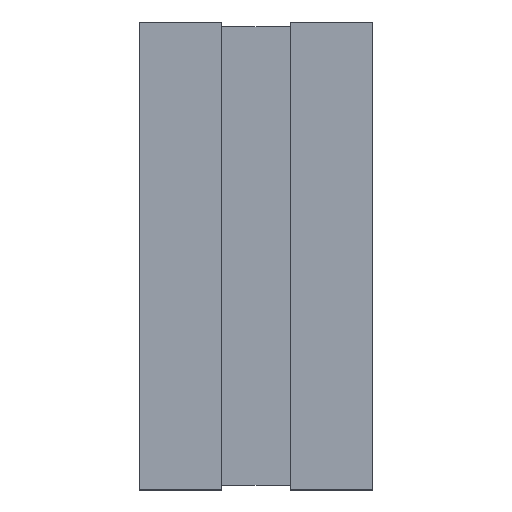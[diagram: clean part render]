
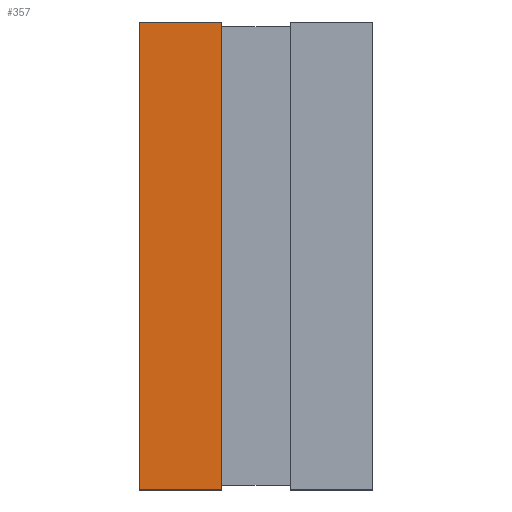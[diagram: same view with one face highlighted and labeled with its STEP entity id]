
A CAD part, top view. The second image highlights one B-rep face of the part: STEP entity #357.
In plain terms, the highlighted planar face has unit normal (0, 0, 1).
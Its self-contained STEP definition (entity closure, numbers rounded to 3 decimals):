
#43 = VERTEX_POINT('',#44);
#44 = CARTESIAN_POINT('',(0.,0.,0.7));
#51 = PLANE('',#52);
#52 = AXIS2_PLACEMENT_3D('',#53,#54,#55);
#53 = CARTESIAN_POINT('',(0.,0.,0.));
#54 = DIRECTION('',(1.,0.,-0.));
#55 = DIRECTION('',(0.,0.,1.));
#63 = PLANE('',#64);
#64 = AXIS2_PLACEMENT_3D('',#65,#66,#67);
#65 = CARTESIAN_POINT('',(0.,0.,0.));
#66 = DIRECTION('',(-0.,1.,0.));
#67 = DIRECTION('',(0.,0.,1.));
#104 = VERTEX_POINT('',#105);
#105 = CARTESIAN_POINT('',(0.,6.4,0.7));
#119 = PLANE('',#120);
#120 = AXIS2_PLACEMENT_3D('',#121,#122,#123);
#121 = CARTESIAN_POINT('',(0.,6.4,0.));
#122 = DIRECTION('',(-0.,1.,0.));
#123 = DIRECTION('',(0.,0.,1.));
#131 = EDGE_CURVE('',#43,#104,#132,.T.);
#132 = SURFACE_CURVE('',#133,(#137,#144),.PCURVE_S1.);
#133 = LINE('',#134,#135);
#134 = CARTESIAN_POINT('',(0.,0.,0.7));
#135 = VECTOR('',#136,1.);
#136 = DIRECTION('',(-0.,1.,0.));
#137 = PCURVE('',#51,#138);
#138 = DEFINITIONAL_REPRESENTATION('',(#139),#143);
#139 = LINE('',#140,#141);
#140 = CARTESIAN_POINT('',(0.7,0.));
#141 = VECTOR('',#142,1.);
#142 = DIRECTION('',(0.,-1.));
#143 = ( GEOMETRIC_REPRESENTATION_CONTEXT(2) 
PARAMETRIC_REPRESENTATION_CONTEXT() REPRESENTATION_CONTEXT('2D SPACE',''
  ) );
#144 = PCURVE('',#145,#150);
#145 = PLANE('',#146);
#146 = AXIS2_PLACEMENT_3D('',#147,#148,#149);
#147 = CARTESIAN_POINT('',(0.,0.,0.7));
#148 = DIRECTION('',(0.,0.,1.));
#149 = DIRECTION('',(1.,0.,-0.));
#150 = DEFINITIONAL_REPRESENTATION('',(#151),#155);
#151 = LINE('',#152,#153);
#152 = CARTESIAN_POINT('',(0.,0.));
#153 = VECTOR('',#154,1.);
#154 = DIRECTION('',(0.,1.));
#155 = ( GEOMETRIC_REPRESENTATION_CONTEXT(2) 
PARAMETRIC_REPRESENTATION_CONTEXT() REPRESENTATION_CONTEXT('2D SPACE',''
  ) );
#163 = VERTEX_POINT('',#164);
#164 = CARTESIAN_POINT('',(1.13,0.,0.7));
#171 = PLANE('',#172);
#172 = AXIS2_PLACEMENT_3D('',#173,#174,#175);
#173 = CARTESIAN_POINT('',(1.13,0.,0.));
#174 = DIRECTION('',(1.,0.,-0.));
#175 = DIRECTION('',(0.,0.,1.));
#214 = VERTEX_POINT('',#215);
#215 = CARTESIAN_POINT('',(1.13,6.4,0.7));
#236 = EDGE_CURVE('',#163,#214,#237,.T.);
#237 = SURFACE_CURVE('',#238,(#242,#249),.PCURVE_S1.);
#238 = LINE('',#239,#240);
#239 = CARTESIAN_POINT('',(1.13,0.,0.7));
#240 = VECTOR('',#241,1.);
#241 = DIRECTION('',(0.,1.,0.));
#242 = PCURVE('',#171,#243);
#243 = DEFINITIONAL_REPRESENTATION('',(#244),#248);
#244 = LINE('',#245,#246);
#245 = CARTESIAN_POINT('',(0.7,0.));
#246 = VECTOR('',#247,1.);
#247 = DIRECTION('',(0.,-1.));
#248 = ( GEOMETRIC_REPRESENTATION_CONTEXT(2) 
PARAMETRIC_REPRESENTATION_CONTEXT() REPRESENTATION_CONTEXT('2D SPACE',''
  ) );
#249 = PCURVE('',#145,#250);
#250 = DEFINITIONAL_REPRESENTATION('',(#251),#255);
#251 = LINE('',#252,#253);
#252 = CARTESIAN_POINT('',(1.13,0.));
#253 = VECTOR('',#254,1.);
#254 = DIRECTION('',(0.,1.));
#255 = ( GEOMETRIC_REPRESENTATION_CONTEXT(2) 
PARAMETRIC_REPRESENTATION_CONTEXT() REPRESENTATION_CONTEXT('2D SPACE',''
  ) );
#282 = EDGE_CURVE('',#43,#163,#283,.T.);
#283 = SURFACE_CURVE('',#284,(#288,#295),.PCURVE_S1.);
#284 = LINE('',#285,#286);
#285 = CARTESIAN_POINT('',(0.,0.,0.7));
#286 = VECTOR('',#287,1.);
#287 = DIRECTION('',(1.,0.,-0.));
#288 = PCURVE('',#63,#289);
#289 = DEFINITIONAL_REPRESENTATION('',(#290),#294);
#290 = LINE('',#291,#292);
#291 = CARTESIAN_POINT('',(0.7,0.));
#292 = VECTOR('',#293,1.);
#293 = DIRECTION('',(0.,1.));
#294 = ( GEOMETRIC_REPRESENTATION_CONTEXT(2) 
PARAMETRIC_REPRESENTATION_CONTEXT() REPRESENTATION_CONTEXT('2D SPACE',''
  ) );
#295 = PCURVE('',#145,#296);
#296 = DEFINITIONAL_REPRESENTATION('',(#297),#301);
#297 = LINE('',#298,#299);
#298 = CARTESIAN_POINT('',(0.,0.));
#299 = VECTOR('',#300,1.);
#300 = DIRECTION('',(1.,0.));
#301 = ( GEOMETRIC_REPRESENTATION_CONTEXT(2) 
PARAMETRIC_REPRESENTATION_CONTEXT() REPRESENTATION_CONTEXT('2D SPACE',''
  ) );
#329 = EDGE_CURVE('',#104,#214,#330,.T.);
#330 = SURFACE_CURVE('',#331,(#335,#342),.PCURVE_S1.);
#331 = LINE('',#332,#333);
#332 = CARTESIAN_POINT('',(0.,6.4,0.7));
#333 = VECTOR('',#334,1.);
#334 = DIRECTION('',(1.,0.,-0.));
#335 = PCURVE('',#119,#336);
#336 = DEFINITIONAL_REPRESENTATION('',(#337),#341);
#337 = LINE('',#338,#339);
#338 = CARTESIAN_POINT('',(0.7,0.));
#339 = VECTOR('',#340,1.);
#340 = DIRECTION('',(0.,1.));
#341 = ( GEOMETRIC_REPRESENTATION_CONTEXT(2) 
PARAMETRIC_REPRESENTATION_CONTEXT() REPRESENTATION_CONTEXT('2D SPACE',''
  ) );
#342 = PCURVE('',#145,#343);
#343 = DEFINITIONAL_REPRESENTATION('',(#344),#348);
#344 = LINE('',#345,#346);
#345 = CARTESIAN_POINT('',(0.,6.4));
#346 = VECTOR('',#347,1.);
#347 = DIRECTION('',(1.,0.));
#348 = ( GEOMETRIC_REPRESENTATION_CONTEXT(2) 
PARAMETRIC_REPRESENTATION_CONTEXT() REPRESENTATION_CONTEXT('2D SPACE',''
  ) );
#357 = ADVANCED_FACE('',(#358),#145,.T.);
#358 = FACE_BOUND('',#359,.T.);
#359 = EDGE_LOOP('',(#360,#361,#362,#363));
#360 = ORIENTED_EDGE('',*,*,#131,.F.);
#361 = ORIENTED_EDGE('',*,*,#282,.T.);
#362 = ORIENTED_EDGE('',*,*,#236,.T.);
#363 = ORIENTED_EDGE('',*,*,#329,.F.);
